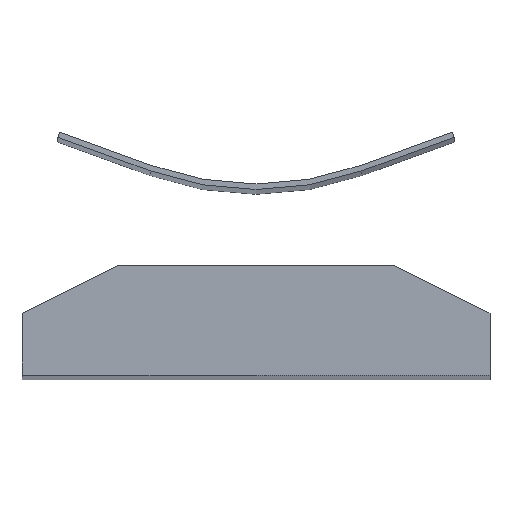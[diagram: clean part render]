
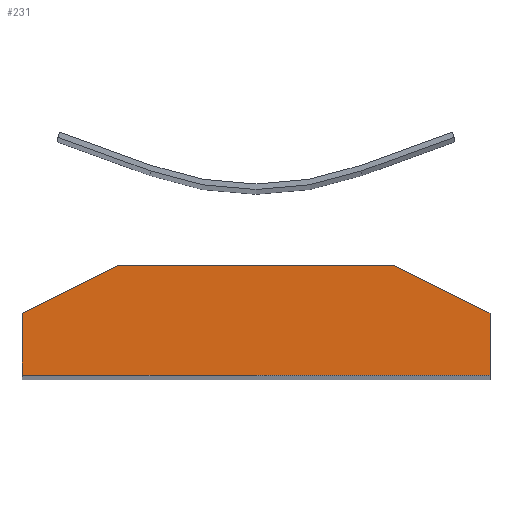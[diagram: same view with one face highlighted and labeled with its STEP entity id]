
A CAD part, top view. The second image highlights one B-rep face of the part: STEP entity #231.
In plain terms, the highlighted planar face has unit normal (0, 0, 1).
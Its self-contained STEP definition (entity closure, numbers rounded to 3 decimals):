
#24 = DIRECTION ( 'NONE',  ( -1., 0., 0. ) ) ;
#27 = CARTESIAN_POINT ( 'NONE',  ( -200., 160., 2000. ) ) ;
#94 = CARTESIAN_POINT ( 'NONE',  ( -340., 90., 2000. ) ) ;
#102 = DIRECTION ( 'NONE',  ( -0.894, 0.447, 0. ) ) ;
#116 = VECTOR ( 'NONE', #24, 1000. ) ;
#119 = CARTESIAN_POINT ( 'NONE',  ( 200., 160., 2000. ) ) ;
#122 = LINE ( 'NONE', #27, #116 ) ;
#124 = CARTESIAN_POINT ( 'NONE',  ( 340., 90., 2000. ) ) ;
#132 = DIRECTION ( 'NONE',  ( 1., 0., 0. ) ) ;
#146 = VECTOR ( 'NONE', #181, 1000. ) ;
#150 = LINE ( 'NONE', #94, #146 ) ;
#181 = DIRECTION ( 'NONE',  ( -0.894, -0.447, 0. ) ) ;
#193 = DIRECTION ( 'NONE',  ( 0., -1., 0. ) ) ;
#196 = CARTESIAN_POINT ( 'NONE',  ( -340., 0., 2000. ) ) ;
#197 = VECTOR ( 'NONE', #102, 1000. ) ;
#200 = CARTESIAN_POINT ( 'NONE',  ( -340., 0., 2000. ) ) ;
#207 = LINE ( 'NONE', #119, #197 ) ;
#211 = CARTESIAN_POINT ( 'NONE',  ( -340., 90., 2000. ) ) ;
#213 = VECTOR ( 'NONE', #408, 1000. ) ;
#215 = CARTESIAN_POINT ( 'NONE',  ( 200., 160., 2000. ) ) ;
#221 = CARTESIAN_POINT ( 'NONE',  ( -200., 160., 2000. ) ) ;
#222 = LINE ( 'NONE', #124, #213 ) ;
#228 = LINE ( 'NONE', #196, #237 ) ;
#231 = ADVANCED_FACE ( 'NONE', ( #260 ), #318, .F. ) ;
#237 = VECTOR ( 'NONE', #132, 1000. ) ;
#238 = LINE ( 'NONE', #200, #245 ) ;
#245 = VECTOR ( 'NONE', #193, 1000. ) ;
#258 = CARTESIAN_POINT ( 'NONE',  ( 340., 90., 2000. ) ) ;
#260 = FACE_OUTER_BOUND ( 'NONE', #281, .T. ) ;
#280 = CARTESIAN_POINT ( 'NONE',  ( 340., 0., 2000. ) ) ;
#281 = EDGE_LOOP ( 'NONE', ( #326, #327, #329, #331, #332, #335 ) ) ;
#296 = CARTESIAN_POINT ( 'NONE',  ( -340., 0., 2000. ) ) ;
#318 = PLANE ( 'NONE',  #529 ) ;
#326 = ORIENTED_EDGE ( 'NONE', *, *, #539, .T. ) ;
#327 = ORIENTED_EDGE ( 'NONE', *, *, #541, .T. ) ;
#329 = ORIENTED_EDGE ( 'NONE', *, *, #545, .T. ) ;
#331 = ORIENTED_EDGE ( 'NONE', *, *, #549, .T. ) ;
#332 = ORIENTED_EDGE ( 'NONE', *, *, #578, .T. ) ;
#335 = ORIENTED_EDGE ( 'NONE', *, *, #566, .T. ) ;
#369 = CARTESIAN_POINT ( 'NONE',  ( 0., 0., 2000. ) ) ;
#395 = DIRECTION ( 'NONE',  ( 0., 0., -1. ) ) ;
#398 = VERTEX_POINT ( 'NONE', #296 ) ;
#408 = DIRECTION ( 'NONE',  ( 0., 1., 0. ) ) ;
#428 = VERTEX_POINT ( 'NONE', #280 ) ;
#432 = VERTEX_POINT ( 'NONE', #258 ) ;
#451 = DIRECTION ( 'NONE',  ( -1., 0., 0. ) ) ;
#464 = VERTEX_POINT ( 'NONE', #221 ) ;
#475 = VERTEX_POINT ( 'NONE', #211 ) ;
#476 = VERTEX_POINT ( 'NONE', #215 ) ;
#529 = AXIS2_PLACEMENT_3D ( 'NONE', #369, #395, #451 ) ;
#539 = EDGE_CURVE ( 'NONE', #475, #398, #238, .T. ) ;
#541 = EDGE_CURVE ( 'NONE', #398, #428, #228, .T. ) ;
#545 = EDGE_CURVE ( 'NONE', #428, #432, #222, .T. ) ;
#549 = EDGE_CURVE ( 'NONE', #432, #476, #207, .T. ) ;
#566 = EDGE_CURVE ( 'NONE', #464, #475, #150, .T. ) ;
#578 = EDGE_CURVE ( 'NONE', #476, #464, #122, .T. ) ;
